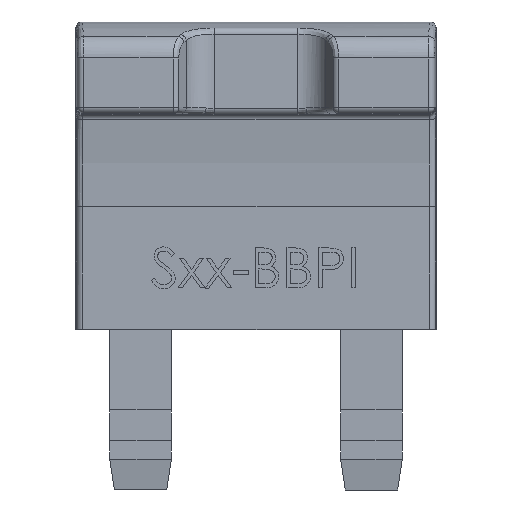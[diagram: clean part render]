
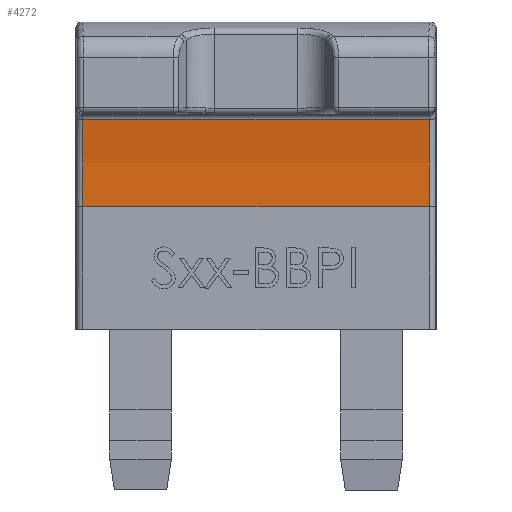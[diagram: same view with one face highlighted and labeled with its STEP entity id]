
A CAD part, front view. The second image highlights one B-rep face of the part: STEP entity #4272.
In plain terms, the highlighted cylindrical face has radius 20 mm (diameter 40 mm), a partial arc.
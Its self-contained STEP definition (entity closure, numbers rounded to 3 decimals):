
#1015 = ORIENTED_EDGE ( 'NONE', *, *, #6960, .F. ) ;
#1181 = CARTESIAN_POINT ( 'NONE',  ( 0., 1.75, 9.2 ) ) ;
#1193 = VERTEX_POINT ( 'NONE', #9724 ) ;
#1341 = AXIS2_PLACEMENT_3D ( 'NONE', #8889, #3415, #6527 ) ;
#1351 = EDGE_LOOP ( 'NONE', ( #2744, #11353, #1015, #10285 ) ) ;
#1957 = EDGE_CURVE ( 'NONE', #1193, #12662, #4430, .T. ) ;
#2112 = DIRECTION ( 'NONE',  ( 1., 0., 0. ) ) ;
#2120 = FACE_OUTER_BOUND ( 'NONE', #1351, .T. ) ;
#2744 = ORIENTED_EDGE ( 'NONE', *, *, #9303, .T. ) ;
#3415 = DIRECTION ( 'NONE',  ( 1., 0., 0. ) ) ;
#3477 = DIRECTION ( 'NONE',  ( 1., 0., 0. ) ) ;
#4157 = CARTESIAN_POINT ( 'NONE',  ( 0.22, 1.683, 11.096 ) ) ;
#4264 = CARTESIAN_POINT ( 'NONE',  ( 11.482, 1.75, 9.2 ) ) ;
#4272 = ADVANCED_FACE ( 'NONE', ( #2120 ), #6606, .F. ) ;
#4430 =( BOUNDED_CURVE ( )  B_SPLINE_CURVE ( 3, ( #5824, #10064, #11207, #7856 ),
 .UNSPECIFIED., .F., .F. ) 
 B_SPLINE_CURVE_WITH_KNOTS ( ( 4, 4 ),
 ( 6.141, 6.283 ),
 .UNSPECIFIED. ) 
 CURVE ( )  GEOMETRIC_REPRESENTATION_ITEM ( )  RATIONAL_B_SPLINE_CURVE ( ( 1., 0.998, 0.998, 1. ) ) 
 REPRESENTATION_ITEM ( '' )  );
#5007 = EDGE_CURVE ( 'NONE', #8423, #6416, #9756, .T. ) ;
#5041 = CARTESIAN_POINT ( 'NONE',  ( 0.218, 1.75, 9.2 ) ) ;
#5228 = VECTOR ( 'NONE', #2112, 1000. ) ;
#5237 = LINE ( 'NONE', #8792, #5228 ) ;
#5824 = CARTESIAN_POINT ( 'NONE',  ( 11.478, 1.548, 12.035 ) ) ;
#6104 = CARTESIAN_POINT ( 'NONE',  ( 0.222, 1.548, 12.035 ) ) ;
#6416 = VERTEX_POINT ( 'NONE', #9000 ) ;
#6527 = DIRECTION ( 'NONE',  ( 0., 1., 0. ) ) ;
#6606 = CYLINDRICAL_SURFACE ( 'NONE', #1341, 20. ) ;
#6673 = CARTESIAN_POINT ( 'NONE',  ( 0.218, 1.75, 9.2 ) ) ;
#6960 = EDGE_CURVE ( 'NONE', #6416, #1193, #5237, .T. ) ;
#7856 = CARTESIAN_POINT ( 'NONE',  ( 11.482, 1.75, 9.2 ) ) ;
#8423 = VERTEX_POINT ( 'NONE', #6673 ) ;
#8792 = CARTESIAN_POINT ( 'NONE',  ( 0., 1.548, 12.035 ) ) ;
#8889 = CARTESIAN_POINT ( 'NONE',  ( 0., -18.25, 9.2 ) ) ;
#9000 = CARTESIAN_POINT ( 'NONE',  ( 0.222, 1.548, 12.035 ) ) ;
#9303 = EDGE_CURVE ( 'NONE', #8423, #12662, #10022, .T. ) ;
#9621 = CARTESIAN_POINT ( 'NONE',  ( 0.218, 1.75, 10.149 ) ) ;
#9724 = CARTESIAN_POINT ( 'NONE',  ( 11.478, 1.548, 12.035 ) ) ;
#9756 =( BOUNDED_CURVE ( )  B_SPLINE_CURVE ( 3, ( #5041, #9621, #4157, #6104 ),
 .UNSPECIFIED., .F., .F. ) 
 B_SPLINE_CURVE_WITH_KNOTS ( ( 4, 4 ),
 ( 3.142, 3.284 ),
 .UNSPECIFIED. ) 
 CURVE ( )  GEOMETRIC_REPRESENTATION_ITEM ( )  RATIONAL_B_SPLINE_CURVE ( ( 1., 0.998, 0.998, 1. ) ) 
 REPRESENTATION_ITEM ( '' )  );
#10022 = LINE ( 'NONE', #1181, #11415 ) ;
#10064 = CARTESIAN_POINT ( 'NONE',  ( 11.48, 1.683, 11.096 ) ) ;
#10285 = ORIENTED_EDGE ( 'NONE', *, *, #5007, .F. ) ;
#11207 = CARTESIAN_POINT ( 'NONE',  ( 11.482, 1.75, 10.149 ) ) ;
#11353 = ORIENTED_EDGE ( 'NONE', *, *, #1957, .F. ) ;
#11415 = VECTOR ( 'NONE', #3477, 1000. ) ;
#12662 = VERTEX_POINT ( 'NONE', #4264 ) ;
